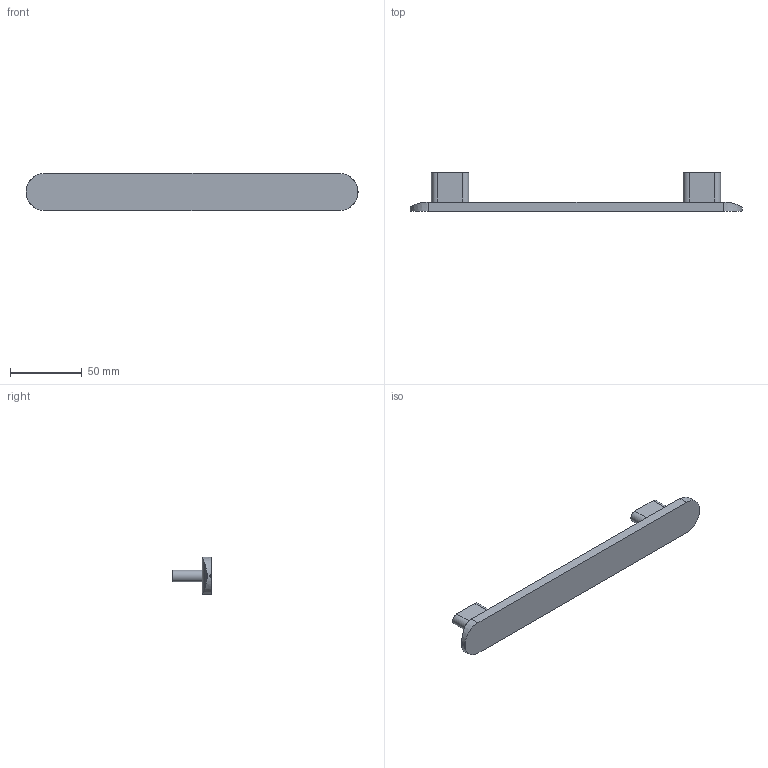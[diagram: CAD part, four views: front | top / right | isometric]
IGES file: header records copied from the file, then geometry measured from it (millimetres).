
Start section: Data from Parasolid IGES Translator 15.0.47, Copyright(c) 2006 Siemens P LM Software. All Rights Reserved.
Global section: file name: 115184.igs; native system:  By UGS Corp.; preprocessor: XPlus GENERIC/IGES 3.0; author: Noname; organization: Noname; date: 20140122.153427; units: millimetre
Bounding box: 232 x 27 x 26 mm (x, y, z)
Surface area: 17758.4 mm2 (no closed solid volume)
Topology: 0 solids, 0 shells, 36 faces, 168 edges, 162 vertices
Faces by surface type: extrusion 18, revolution 18
